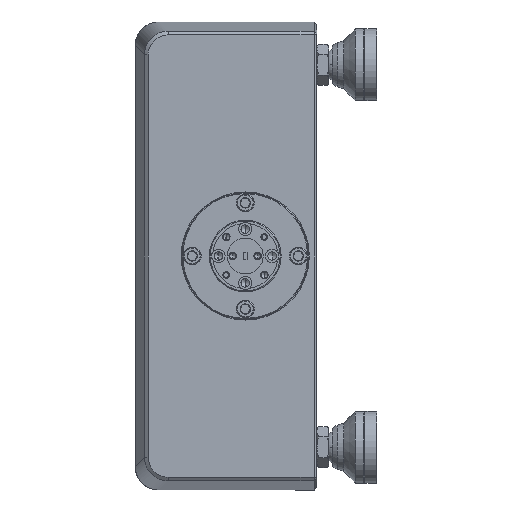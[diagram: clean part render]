
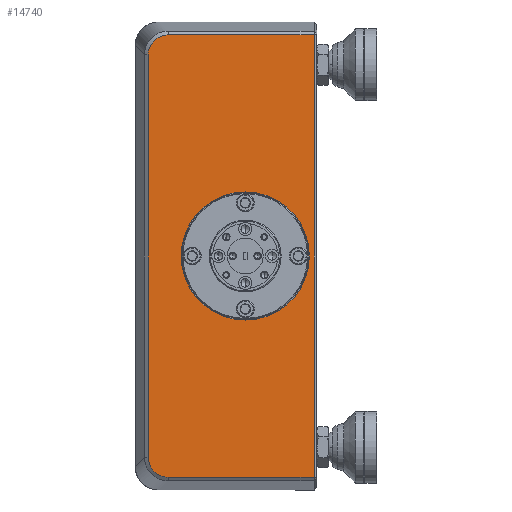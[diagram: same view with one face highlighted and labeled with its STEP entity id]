
A CAD part, left-side view. The second image highlights one B-rep face of the part: STEP entity #14740.
In plain terms, the highlighted planar face has unit normal (-1, 0, 0).
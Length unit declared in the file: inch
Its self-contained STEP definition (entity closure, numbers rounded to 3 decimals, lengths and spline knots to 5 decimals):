
#701 = AXIS2_PLACEMENT_3D ( 'NONE', #105673, #5294, #87988 ) ;
#913 = CARTESIAN_POINT ( 'NONE',  ( -3.68787, 1.23631, 4.13079 ) ) ;
#960 = FACE_OUTER_BOUND ( 'NONE', #62529, .T. ) ;
#1059 = LINE ( 'NONE', #116840, #11133 ) ;
#1773 = DIRECTION ( 'NONE',  ( 0., 0., -1. ) ) ;
#3410 = EDGE_CURVE ( 'NONE', #50668, #48727, #99637, .T. ) ;
#4649 = CARTESIAN_POINT ( 'NONE',  ( -3.68787, 1.35015, -0.37918 ) ) ;
#5294 = DIRECTION ( 'NONE',  ( -1., 0., 0. ) ) ;
#5731 = VERTEX_POINT ( 'NONE', #11928 ) ;
#7442 = CARTESIAN_POINT ( 'NONE',  ( -3.68787, 0.36253, 1.82911 ) ) ;
#11133 = VECTOR ( 'NONE', #18815, 39.37008 ) ;
#11193 = CARTESIAN_POINT ( 'NONE',  ( -3.68787, 1.2363, -0.47258 ) ) ;
#11498 = VECTOR ( 'NONE', #1773, 39.37008 ) ;
#11928 = CARTESIAN_POINT ( 'NONE',  ( -3.68787, 0.36253, 1.15911 ) ) ;
#12357 = CARTESIAN_POINT ( 'NONE',  ( -3.68787, 1.22321, -0.47652 ) ) ;
#14740 = ADVANCED_FACE ( 'NONE', ( #19292, #960 ), #82480, .F. ) ;
#15097 = CARTESIAN_POINT ( 'NONE',  ( -3.68787, 0.56253, -0.48321 ) ) ;
#17971 = VERTEX_POINT ( 'NONE', #31430 ) ;
#18668 = CARTESIAN_POINT ( 'NONE',  ( -3.68787, 1.1961, 4.14009 ) ) ;
#18815 = DIRECTION ( 'NONE',  ( 0., 1., 0. ) ) ;
#19292 = FACE_BOUND ( 'NONE', #46964, .T. ) ;
#20058 = CARTESIAN_POINT ( 'NONE',  ( -3.68787, 1.26152, -0.46218 ) ) ;
#20493 = CARTESIAN_POINT ( 'NONE',  ( -3.68787, -0.35747, 1.82911 ) ) ;
#20594 = EDGE_CURVE ( 'NONE', #48727, #38305, #73282, .T. ) ;
#20640 = CARTESIAN_POINT ( 'NONE',  ( -3.68787, 1.29646, -0.4405 ) ) ;
#21554 = CARTESIAN_POINT ( 'NONE',  ( -3.68787, 1.32625, 4.07085 ) ) ;
#22372 = CARTESIAN_POINT ( 'NONE',  ( -3.68787, 1.18246, -0.48321 ) ) ;
#25197 = VECTOR ( 'NONE', #92559, 39.37008 ) ;
#28102 = CARTESIAN_POINT ( 'NONE',  ( -3.68787, 1.29646, 4.09873 ) ) ;
#28869 = EDGE_CURVE ( 'NONE', #38305, #66616, #74830, .T. ) ;
#30056 = CARTESIAN_POINT ( 'NONE',  ( -3.68787, 1.37092, -0.32879 ) ) ;
#30400 = CARTESIAN_POINT ( 'NONE',  ( -3.68787, 1.37627, 3.95994 ) ) ;
#31430 = CARTESIAN_POINT ( 'NONE',  ( -3.68787, -0.35747, 4.14143 ) ) ;
#36730 = LINE ( 'NONE', #15097, #38221 ) ;
#36835 = CARTESIAN_POINT ( 'NONE',  ( -3.68787, 1.16869, 4.14143 ) ) ;
#37561 = CARTESIAN_POINT ( 'NONE',  ( -3.68787, 0.56253, 1.82911 ) ) ;
#38221 = VECTOR ( 'NONE', #81062, 39.37008 ) ;
#38305 = VERTEX_POINT ( 'NONE', #73811 ) ;
#38895 = CARTESIAN_POINT ( 'NONE',  ( -3.68787, 1.37761, -0.27429 ) ) ;
#39020 = CARTESIAN_POINT ( 'NONE',  ( -3.68787, -0.35747, -0.48321 ) ) ;
#40642 = CARTESIAN_POINT ( 'NONE',  ( -3.68787, 1.32625, -0.41262 ) ) ;
#40976 = CARTESIAN_POINT ( 'NONE',  ( -3.68787, 1.3349, 4.06028 ) ) ;
#41662 = ORIENTED_EDGE ( 'NONE', *, *, #89221, .T. ) ;
#43441 = DIRECTION ( 'NONE',  ( 0., 0., 1. ) ) ;
#46964 = EDGE_LOOP ( 'NONE', ( #55471, #83463 ) ) ;
#47750 = CIRCLE ( 'NONE', #113766, 0.67 ) ;
#48727 = VERTEX_POINT ( 'NONE', #70170 ) ;
#50668 = VERTEX_POINT ( 'NONE', #36835 ) ;
#54787 = EDGE_CURVE ( 'NONE', #66616, #61928, #36730, .T. ) ;
#55241 = CARTESIAN_POINT ( 'NONE',  ( -3.68787, 1.30702, 4.09007 ) ) ;
#55471 = ORIENTED_EDGE ( 'NONE', *, *, #96909, .F. ) ;
#55945 = EDGE_CURVE ( 'NONE', #61928, #17971, #101401, .T. ) ;
#56067 = CARTESIAN_POINT ( 'NONE',  ( -3.68787, 1.37761, -0.28802 ) ) ;
#58718 = CARTESIAN_POINT ( 'NONE',  ( -3.68787, 1.37761, 3.93251 ) ) ;
#61928 = VERTEX_POINT ( 'NONE', #39020 ) ;
#62529 = EDGE_LOOP ( 'NONE', ( #95310, #99211, #83947, #41662, #71638, #68333 ) ) ;
#64994 = CARTESIAN_POINT ( 'NONE',  ( -3.68787, 1.37761, 1.82911 ) ) ;
#66094 = CARTESIAN_POINT ( 'NONE',  ( -3.68787, 1.35658, -0.36712 ) ) ;
#66616 = VERTEX_POINT ( 'NONE', #85812 ) ;
#68333 = ORIENTED_EDGE ( 'NONE', *, *, #20594, .T. ) ;
#70170 = CARTESIAN_POINT ( 'NONE',  ( -3.68787, 1.37761, 3.93251 ) ) ;
#71638 = ORIENTED_EDGE ( 'NONE', *, *, #3410, .T. ) ;
#71720 = VERTEX_POINT ( 'NONE', #93561 ) ;
#73000 = CARTESIAN_POINT ( 'NONE',  ( -3.68787, 1.26151, 4.12041 ) ) ;
#73282 = LINE ( 'NONE', #64994, #11498 ) ;
#73811 = CARTESIAN_POINT ( 'NONE',  ( -3.68787, 1.37761, -0.27429 ) ) ;
#74830 = B_SPLINE_CURVE_WITH_KNOTS ( 'NONE', 3,
 ( #38895, #56067, #103278, #30056, #112111, #66094, #4649, #101543, #40642, #76695, #20640, #93293, #20058, #11193, #12357, #92128, #22372, #84405 ),
 .UNSPECIFIED., .F., .F.,
 ( 4, 2, 2, 2, 2, 2, 2, 2, 4 ),
 ( 0., 0.125, 0.25, 0.375, 0.5, 0.625, 0.75, 0.875, 1. ),
 .UNSPECIFIED. ) ;
#75312 = CARTESIAN_POINT ( 'NONE',  ( -3.68787, 1.16869, 4.14143 ) ) ;
#75888 = CARTESIAN_POINT ( 'NONE',  ( -3.68787, 1.37761, 3.94628 ) ) ;
#76462 = CARTESIAN_POINT ( 'NONE',  ( -3.68787, 1.37092, 3.98704 ) ) ;
#76695 = CARTESIAN_POINT ( 'NONE',  ( -3.68787, 1.30703, -0.43186 ) ) ;
#77194 = EDGE_CURVE ( 'NONE', #5731, #71720, #102541, .T. ) ;
#78216 = CARTESIAN_POINT ( 'NONE',  ( -3.68787, 1.35015, 4.03741 ) ) ;
#79488 = DIRECTION ( 'NONE',  ( -1., 0., 0. ) ) ;
#81062 = DIRECTION ( 'NONE',  ( 0., -1., 0. ) ) ;
#81846 = CARTESIAN_POINT ( 'NONE',  ( -3.68787, 1.22318, 4.13475 ) ) ;
#82480 = PLANE ( 'NONE',  #95154 ) ;
#83463 = ORIENTED_EDGE ( 'NONE', *, *, #77194, .F. ) ;
#83947 = ORIENTED_EDGE ( 'NONE', *, *, #55945, .T. ) ;
#84219 = DIRECTION ( 'NONE',  ( 0., 1., 0. ) ) ;
#84405 = CARTESIAN_POINT ( 'NONE',  ( -3.68787, 1.16869, -0.48321 ) ) ;
#85812 = CARTESIAN_POINT ( 'NONE',  ( -3.68787, 1.16869, -0.48321 ) ) ;
#87095 = CARTESIAN_POINT ( 'NONE',  ( -3.68787, 1.35657, 4.02535 ) ) ;
#87988 = DIRECTION ( 'NONE',  ( 0., 0., 1. ) ) ;
#89221 = EDGE_CURVE ( 'NONE', #17971, #50668, #1059, .T. ) ;
#92128 = CARTESIAN_POINT ( 'NONE',  ( -3.68787, 1.19612, -0.48187 ) ) ;
#92559 = DIRECTION ( 'NONE',  ( 0., 0., 1. ) ) ;
#93293 = CARTESIAN_POINT ( 'NONE',  ( -3.68787, 1.27358, -0.45575 ) ) ;
#93561 = CARTESIAN_POINT ( 'NONE',  ( -3.68787, 0.36253, 2.49911 ) ) ;
#95154 = AXIS2_PLACEMENT_3D ( 'NONE', #37561, #101361, #84219 ) ;
#95310 = ORIENTED_EDGE ( 'NONE', *, *, #28869, .T. ) ;
#95961 = CARTESIAN_POINT ( 'NONE',  ( -3.68787, 1.36698, 4.00013 ) ) ;
#96909 = EDGE_CURVE ( 'NONE', #71720, #5731, #47750, .T. ) ;
#99211 = ORIENTED_EDGE ( 'NONE', *, *, #54787, .T. ) ;
#99574 = CARTESIAN_POINT ( 'NONE',  ( -3.68787, 1.18242, 4.14144 ) ) ;
#99637 = B_SPLINE_CURVE_WITH_KNOTS ( 'NONE', 3,
 ( #75312, #99574, #18668, #81846, #913, #73000, #108978, #28102, #55241, #21554, #40976, #78216, #87095, #95961, #76462, #30400, #75888, #58718 ),
 .UNSPECIFIED., .F., .F.,
 ( 4, 2, 2, 2, 2, 2, 2, 2, 4 ),
 ( 0., 0.125, 0.25, 0.375, 0.5, 0.625, 0.75, 0.875, 1. ),
 .UNSPECIFIED. ) ;
#101361 = DIRECTION ( 'NONE',  ( 1., 0., 0. ) ) ;
#101401 = LINE ( 'NONE', #20493, #25197 ) ;
#101543 = CARTESIAN_POINT ( 'NONE',  ( -3.68787, 1.3349, -0.40206 ) ) ;
#102541 = CIRCLE ( 'NONE', #701, 0.67 ) ;
#103278 = CARTESIAN_POINT ( 'NONE',  ( -3.68787, 1.37626, -0.30171 ) ) ;
#105673 = CARTESIAN_POINT ( 'NONE',  ( -3.68787, 0.36253, 1.82911 ) ) ;
#108978 = CARTESIAN_POINT ( 'NONE',  ( -3.68787, 1.27358, 4.11398 ) ) ;
#112111 = CARTESIAN_POINT ( 'NONE',  ( -3.68787, 1.36697, -0.34191 ) ) ;
#113766 = AXIS2_PLACEMENT_3D ( 'NONE', #7442, #79488, #43441 ) ;
#116840 = CARTESIAN_POINT ( 'NONE',  ( -3.68787, 0.56253, 4.14143 ) ) ;
